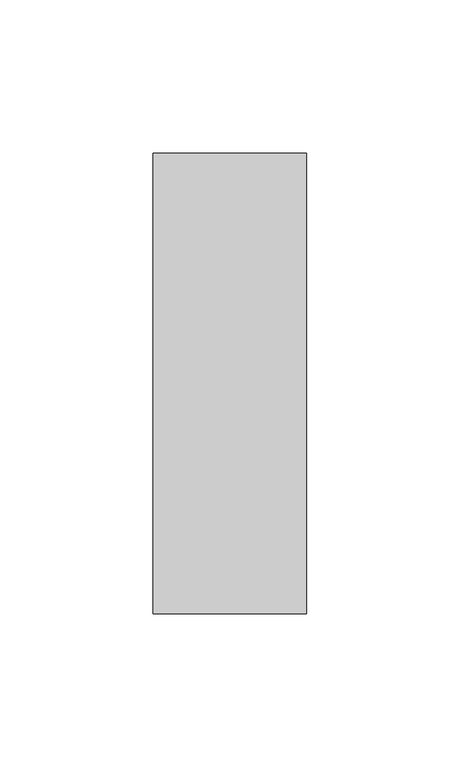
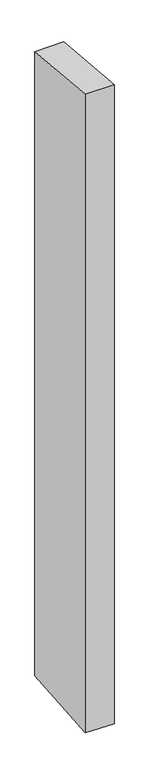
"""IFC4 building model written with IfcOpenShell, lengths in millimetres: member geometry, Прямоугольный импост : 50 x 150 мм."""

from ifc_helpers import new_model, si_unit, origin, place, context, project, spatial, faceted_brep, source, transform, mapped, element, save


def member_8063ddc4(model_context):
    return source(origin(), model_context, "Body", "Brep", [
        faceted_brep([(-25.0, 75.0, -6.5118299), (25.0, 75.0, -6.272587), (25.0, 75.0, -1146.1247288), (-25.0, 75.0, -1145.7731035), (-25.0, -75.0, 6.272587), (-25.0, -75.0, -1159.5417632), (25.0, -75.0, 6.5118299), (25.0, -75.0, -1159.8933884)], [[[0, 1, 2, 3]], [[4, 0, 3, 5]], [[6, 4, 5, 7]], [[1, 6, 7, 2]], [[1, 0, 4, 6]], [[2, 7, 5, 3]]]),
    ])


if __name__ == "__main__":
    model = new_model("IFC4")
    model_context = context("Model", 3, world=origin())
    ifc_project = project(units=[si_unit("LENGTHUNIT", "METRE", prefix="MILLI")], contexts=[model_context])
    site = spatial("IfcSite", under=ifc_project)
    building = spatial("IfcBuilding", under=site)
    placement = place(None, origin())
    member_shape = member_8063ddc4(model_context)
    element("IfcMember", 1, ObjectType="Прямоугольный импост : 50 x 150 мм", at=placement, inside=building, context=model_context, shape_type="MappedRepresentation", body=[
        mapped(member_shape, transform((0.0, 0.0, 0.0), x_axis=(1.0, 0.0, 0.0), y_axis=(0.0, 1.0, 0.0), z_axis=(0.0, 0.0, 1.0))),
    ])
    save(model, "model.ifc")
